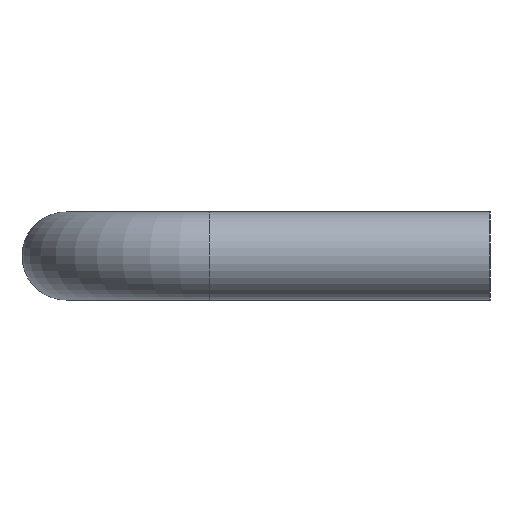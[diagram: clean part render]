
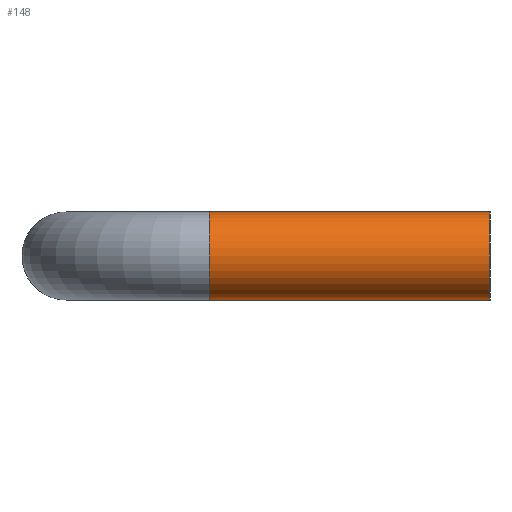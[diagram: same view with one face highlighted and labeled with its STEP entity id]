
A CAD part, left-side view. The second image highlights one B-rep face of the part: STEP entity #148.
In plain terms, the highlighted cylindrical face has radius 8 mm (diameter 16 mm), a full revolution.
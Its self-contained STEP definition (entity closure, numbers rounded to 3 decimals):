
#28=CYLINDRICAL_SURFACE('',#176,8.);
#35=ORIENTED_EDGE('',*,*,#59,.F.);
#36=ORIENTED_EDGE('',*,*,#57,.T.);
#57=EDGE_CURVE('',#69,#69,#83,.T.);
#59=EDGE_CURVE('',#71,#71,#85,.T.);
#69=VERTEX_POINT('',#253);
#71=VERTEX_POINT('',#258);
#83=CIRCLE('',#174,8.);
#85=CIRCLE('',#177,8.);
#97=EDGE_LOOP('',(#35));
#98=EDGE_LOOP('',(#36));
#121=FACE_BOUND('',#97,.T.);
#122=FACE_BOUND('',#98,.T.);
#148=ADVANCED_FACE('',(#121,#122),#28,.T.);
#174=AXIS2_PLACEMENT_3D('',#252,#202,#203);
#176=AXIS2_PLACEMENT_3D('',#256,#206,#207);
#177=AXIS2_PLACEMENT_3D('',#257,#208,#209);
#202=DIRECTION('',(0.,1.,0.));
#203=DIRECTION('',(0.,0.,1.));
#206=DIRECTION('',(0.,1.,0.));
#207=DIRECTION('',(0.,0.,1.));
#208=DIRECTION('',(0.,1.,0.));
#209=DIRECTION('',(0.,0.,1.));
#252=CARTESIAN_POINT('',(-150.,0.,0.));
#253=CARTESIAN_POINT('',(-150.,0.,8.));
#256=CARTESIAN_POINT('',(-150.,51.,0.));
#257=CARTESIAN_POINT('',(-150.,51.,0.));
#258=CARTESIAN_POINT('',(-150.,51.,8.));
